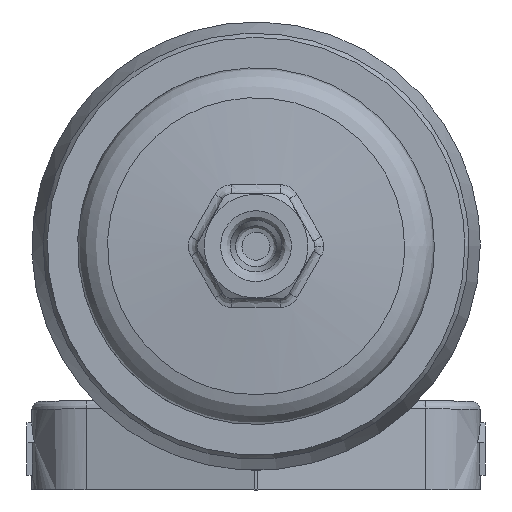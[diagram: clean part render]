
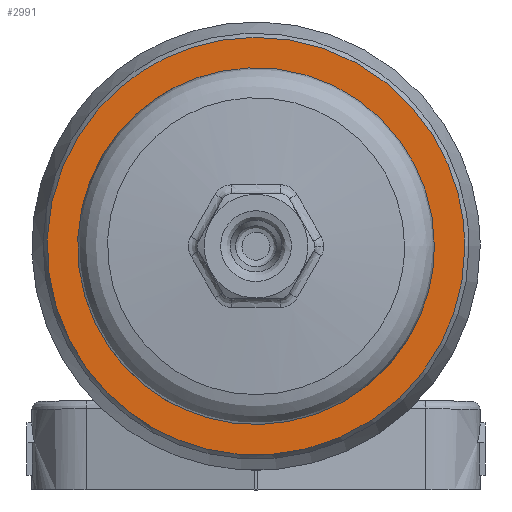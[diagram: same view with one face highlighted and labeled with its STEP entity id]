
A CAD part, front view. The second image highlights one B-rep face of the part: STEP entity #2991.
In plain terms, the highlighted free-form (B-spline) face has degree [1, 1] with [2, 2] control points.
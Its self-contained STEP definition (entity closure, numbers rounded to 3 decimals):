
#2933=CARTESIAN_POINT('V57',(54.0,1.5,0.)
   );
#2934=VERTEX_POINT('V57',#2933);
#2935=CARTESIAN_POINT('E83',(54.0,1.5,0.)
   );
#2936=CARTESIAN_POINT('E83',(54.0,1.5,
   93.531));
#2937=CARTESIAN_POINT('E83',(-27.0,1.5,
   46.765));
#2938=CARTESIAN_POINT('E83',(-108.0,1.5,0.)
   );
#2939=CARTESIAN_POINT('E83',(-27.0,1.5,
   -46.765));
#2940=CARTESIAN_POINT('E83',(54.0,1.5,
   -93.531));
#2941=CARTESIAN_POINT('E83',(54.0,1.5,0.)
   );
#2949=(BOUNDED_CURVE()B_SPLINE_CURVE(2,(#2935,#2936,#2937,#2938,
   #2939,#2940,#2941),.CIRCULAR_ARC.,.T.,.U.)
   B_SPLINE_CURVE_WITH_KNOTS((3,2,2,3),(0.0,0.333,
   0.667,1.0),.UNSPECIFIED.)CURVE()
   GEOMETRIC_REPRESENTATION_ITEM()RATIONAL_B_SPLINE_CURVE((1.0,
   0.5,1.0,0.5,1.0,0.5,1.0)
   )REPRESENTATION_ITEM('E83'));
#2950=EDGE_CURVE('E83',#2934,#2934,#2949,.T.);
#2962=CARTESIAN_POINT('F39',(-71.5,1.5,
   -71.5));
#2963=CARTESIAN_POINT('F39',(-71.5,1.5,
   71.5));
#2964=CARTESIAN_POINT('F39',(71.5,1.5,
   -71.5));
#2965=CARTESIAN_POINT('F39',(71.5,1.5,
   71.5));
#2966=QUASI_UNIFORM_SURFACE('F39',1,1,((#2962,#2964),(#2963,#2965))
,.PLANE_SURF.,.F.,.F.,.U.);
#2967=CARTESIAN_POINT('V59',(63.813,1.5,
   0.0));
#2968=VERTEX_POINT('V59',#2967);
#2969=CARTESIAN_POINT('E86',(63.813,1.5,
   0.0));
#2970=CARTESIAN_POINT('E86',(63.813,1.5,
   -110.527));
#2971=CARTESIAN_POINT('E86',(-31.906,1.5,
   -55.264));
#2972=CARTESIAN_POINT('E86',(-127.626,1.5,
   0.));
#2973=CARTESIAN_POINT('E86',(-31.906,1.5,
   55.264));
#2974=CARTESIAN_POINT('E86',(63.813,1.5,
   110.527));
#2975=CARTESIAN_POINT('E86',(63.813,1.5,
   0.0));
#2983=(BOUNDED_CURVE()B_SPLINE_CURVE(2,(#2969,#2970,#2971,#2972,
   #2973,#2974,#2975),.CIRCULAR_ARC.,.T.,.U.)
   B_SPLINE_CURVE_WITH_KNOTS((3,2,2,3),(0.0,28.571,
   57.141,85.712),.UNSPECIFIED.)CURVE()
   GEOMETRIC_REPRESENTATION_ITEM()RATIONAL_B_SPLINE_CURVE((
   0.901,0.451,0.901,
   0.451,0.901,0.451,
   0.901))REPRESENTATION_ITEM('E86'));
#2984=EDGE_CURVE('E86',#2968,#2968,#2983,.T.);
#2985=ORIENTED_EDGE('E86',*,*,#2984,.F.);
#2986=EDGE_LOOP('F39',(#2985));
#2987=FACE_OUTER_BOUND('F39',#2986,.T.);
#2988=ORIENTED_EDGE('E83',*,*,#2950,.F.);
#2989=EDGE_LOOP('F39',(#2988));
#2990=FACE_BOUND('F39',#2989,.T.);
#2991=ADVANCED_FACE('F39',(#2987,#2990),#2966,.F.);
